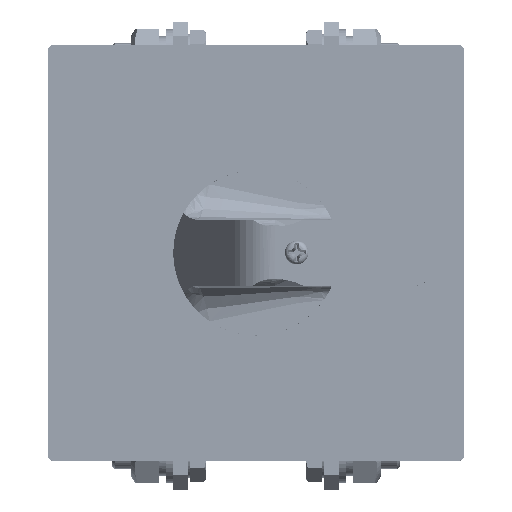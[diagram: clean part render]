
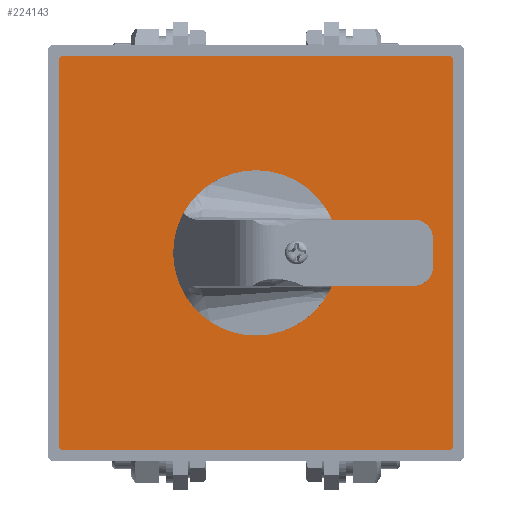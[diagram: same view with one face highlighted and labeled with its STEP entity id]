
A CAD part, top view. The second image highlights one B-rep face of the part: STEP entity #224143.
In plain terms, the highlighted planar face has unit normal (0, 0, 1).
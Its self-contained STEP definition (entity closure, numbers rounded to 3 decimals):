
#577 = ORIENTED_EDGE ( 'NONE', *, *, #156789, .T. ) ;
#2304 = VERTEX_POINT ( 'NONE', #215143 ) ;
#4059 = VECTOR ( 'NONE', #142211, 1000. ) ;
#16990 = CIRCLE ( 'NONE', #203091, 1. ) ;
#18229 = DIRECTION ( 'NONE',  ( 0., 1., 0. ) ) ;
#19652 = EDGE_CURVE ( 'NONE', #327009, #249862, #344900, .T. ) ;
#29988 = CARTESIAN_POINT ( 'NONE',  ( -41.75, 40.75, 422.125 ) ) ;
#32488 = DIRECTION ( 'NONE',  ( -1., 0., 0. ) ) ;
#34879 = DIRECTION ( 'NONE',  ( 1., 0., 0. ) ) ;
#36016 = CARTESIAN_POINT ( 'NONE',  ( 0., 0., 422.125 ) ) ;
#39698 = AXIS2_PLACEMENT_3D ( 'NONE', #230335, #44251, #203460 ) ;
#44251 = DIRECTION ( 'NONE',  ( 0., 0., 1. ) ) ;
#53327 = DIRECTION ( 'NONE',  ( 0., 0., 1. ) ) ;
#54470 = DIRECTION ( 'NONE',  ( 1., 0., 0. ) ) ;
#54681 = EDGE_CURVE ( 'NONE', #248039, #131313, #16990, .T. ) ;
#63611 = ORIENTED_EDGE ( 'NONE', *, *, #69775, .T. ) ;
#64377 = VERTEX_POINT ( 'NONE', #302215 ) ;
#65411 = DIRECTION ( 'NONE',  ( -1., 0., 0. ) ) ;
#69775 = EDGE_CURVE ( 'NONE', #118314, #139456, #149721, .T. ) ;
#89395 = CARTESIAN_POINT ( 'NONE',  ( 40.75, -40.75, 422.125 ) ) ;
#96206 = LINE ( 'NONE', #338262, #200930 ) ;
#97867 = EDGE_LOOP ( 'NONE', ( #300216, #227264 ) ) ;
#102264 = AXIS2_PLACEMENT_3D ( 'NONE', #228005, #225672, #65411 ) ;
#105771 = CIRCLE ( 'NONE', #155347, 12.5 ) ;
#110975 = CARTESIAN_POINT ( 'NONE',  ( -40.75, -40.75, 422.125 ) ) ;
#114353 = EDGE_CURVE ( 'NONE', #139456, #248039, #291320, .T. ) ;
#118314 = VERTEX_POINT ( 'NONE', #165632 ) ;
#123114 = VECTOR ( 'NONE', #268816, 1000. ) ;
#131313 = VERTEX_POINT ( 'NONE', #202027 ) ;
#139456 = VERTEX_POINT ( 'NONE', #208933 ) ;
#142211 = DIRECTION ( 'NONE',  ( -1., 0., 0. ) ) ;
#143475 = CIRCLE ( 'NONE', #165563, 1. ) ;
#143865 = DIRECTION ( 'NONE',  ( 0., 0., 1. ) ) ;
#146802 = DIRECTION ( 'NONE',  ( 0., 0., 1. ) ) ;
#149121 = ORIENTED_EDGE ( 'NONE', *, *, #163507, .T. ) ;
#149721 = CIRCLE ( 'NONE', #264027, 1. ) ;
#149980 = ORIENTED_EDGE ( 'NONE', *, *, #54681, .T. ) ;
#150510 = ORIENTED_EDGE ( 'NONE', *, *, #223762, .T. ) ;
#155347 = AXIS2_PLACEMENT_3D ( 'NONE', #347061, #53327, #54470 ) ;
#156789 = EDGE_CURVE ( 'NONE', #249862, #2304, #143475, .T. ) ;
#163507 = EDGE_CURVE ( 'NONE', #2304, #118314, #96206, .T. ) ;
#165563 = AXIS2_PLACEMENT_3D ( 'NONE', #110975, #191620, #32488 ) ;
#165632 = CARTESIAN_POINT ( 'NONE',  ( 40.75, -41.75, 422.125 ) ) ;
#167251 = FACE_BOUND ( 'NONE', #97867, .T. ) ;
#183795 = FACE_OUTER_BOUND ( 'NONE', #187042, .T. ) ;
#184602 = AXIS2_PLACEMENT_3D ( 'NONE', #36016, #143865, #34879 ) ;
#187042 = EDGE_LOOP ( 'NONE', ( #149980, #306070, #150510, #201434, #577, #149121, #63611, #244111 ) ) ;
#191620 = DIRECTION ( 'NONE',  ( 0., 0., 1. ) ) ;
#198588 = DIRECTION ( 'NONE',  ( 0., 0., 1. ) ) ;
#200930 = VECTOR ( 'NONE', #312485, 1000. ) ;
#201434 = ORIENTED_EDGE ( 'NONE', *, *, #19652, .T. ) ;
#202027 = CARTESIAN_POINT ( 'NONE',  ( 40.75, 41.75, 422.125 ) ) ;
#203091 = AXIS2_PLACEMENT_3D ( 'NONE', #225434, #198588, #254712 ) ;
#203460 = DIRECTION ( 'NONE',  ( 1., 0., 0. ) ) ;
#208933 = CARTESIAN_POINT ( 'NONE',  ( 41.75, -40.75, 422.125 ) ) ;
#209949 = CARTESIAN_POINT ( 'NONE',  ( -12.5, 0., 422.125 ) ) ;
#213259 = CIRCLE ( 'NONE', #102264, 1. ) ;
#215143 = CARTESIAN_POINT ( 'NONE',  ( -40.75, -41.75, 422.125 ) ) ;
#221486 = CARTESIAN_POINT ( 'NONE',  ( -40.75, 41.75, 422.125 ) ) ;
#223762 = EDGE_CURVE ( 'NONE', #326970, #327009, #213259, .T. ) ;
#224143 = ADVANCED_FACE ( 'NONE', ( #183795, #167251 ), #228045, .T. ) ;
#225434 = CARTESIAN_POINT ( 'NONE',  ( 40.75, 40.75, 422.125 ) ) ;
#225672 = DIRECTION ( 'NONE',  ( 0., 0., 1. ) ) ;
#227264 = ORIENTED_EDGE ( 'NONE', *, *, #320809, .F. ) ;
#228005 = CARTESIAN_POINT ( 'NONE',  ( -40.75, 40.75, 422.125 ) ) ;
#228045 = PLANE ( 'NONE',  #39698 ) ;
#230335 = CARTESIAN_POINT ( 'NONE',  ( 40.75, 40.75, 422.125 ) ) ;
#231074 = CIRCLE ( 'NONE', #184602, 12.5 ) ;
#234168 = EDGE_CURVE ( 'NONE', #131313, #326970, #309688, .T. ) ;
#244111 = ORIENTED_EDGE ( 'NONE', *, *, #114353, .T. ) ;
#248039 = VERTEX_POINT ( 'NONE', #347362 ) ;
#249862 = VERTEX_POINT ( 'NONE', #323549 ) ;
#254712 = DIRECTION ( 'NONE',  ( 1., 0., 0. ) ) ;
#264027 = AXIS2_PLACEMENT_3D ( 'NONE', #89395, #146802, #306969 ) ;
#268816 = DIRECTION ( 'NONE',  ( 0., -1., 0. ) ) ;
#287730 = CARTESIAN_POINT ( 'NONE',  ( -40.75, 41.75, 422.125 ) ) ;
#290072 = CARTESIAN_POINT ( 'NONE',  ( -41.75, 40.75, 422.125 ) ) ;
#291320 = LINE ( 'NONE', #338966, #312058 ) ;
#300216 = ORIENTED_EDGE ( 'NONE', *, *, #335435, .F. ) ;
#302215 = CARTESIAN_POINT ( 'NONE',  ( 12.5, 0., 422.125 ) ) ;
#306070 = ORIENTED_EDGE ( 'NONE', *, *, #234168, .T. ) ;
#306969 = DIRECTION ( 'NONE',  ( -1., 0., 0. ) ) ;
#309688 = LINE ( 'NONE', #221486, #4059 ) ;
#312058 = VECTOR ( 'NONE', #18229, 1000. ) ;
#312485 = DIRECTION ( 'NONE',  ( 1., 0., 0. ) ) ;
#320809 = EDGE_CURVE ( 'NONE', #64377, #345581, #105771, .T. ) ;
#323549 = CARTESIAN_POINT ( 'NONE',  ( -41.75, -40.75, 422.125 ) ) ;
#326970 = VERTEX_POINT ( 'NONE', #287730 ) ;
#327009 = VERTEX_POINT ( 'NONE', #290072 ) ;
#335435 = EDGE_CURVE ( 'NONE', #345581, #64377, #231074, .T. ) ;
#338262 = CARTESIAN_POINT ( 'NONE',  ( -40.75, -41.75, 422.125 ) ) ;
#338966 = CARTESIAN_POINT ( 'NONE',  ( 41.75, 40.75, 422.125 ) ) ;
#344900 = LINE ( 'NONE', #29988, #123114 ) ;
#345581 = VERTEX_POINT ( 'NONE', #209949 ) ;
#347061 = CARTESIAN_POINT ( 'NONE',  ( 0., 0., 422.125 ) ) ;
#347362 = CARTESIAN_POINT ( 'NONE',  ( 41.75, 40.75, 422.125 ) ) ;
